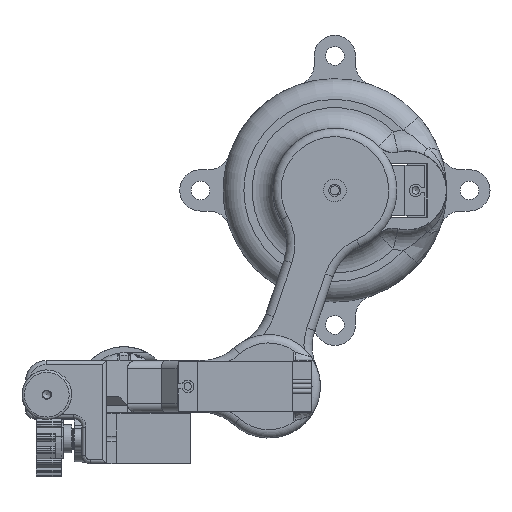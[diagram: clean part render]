
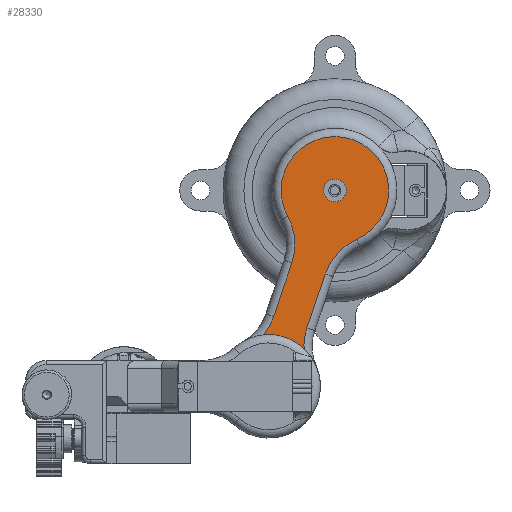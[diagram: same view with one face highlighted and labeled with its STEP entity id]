
A CAD part, left-side view. The second image highlights one B-rep face of the part: STEP entity #28330.
In plain terms, the highlighted planar face has unit normal (-1, 0, 0) as drawn and (0, 0, -1) by its records, which use the part's own axes.
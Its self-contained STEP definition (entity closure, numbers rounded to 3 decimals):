
#4936=FACE_BOUND('',#8200,.T.);
#6022=PLANE('',#30886);
#6907=FACE_OUTER_BOUND('',#8199,.T.);
#8199=EDGE_LOOP('',(#22498,#22499,#22500,#22501,#22502,#22503,#22504,#22505,
#22506,#22507,#22508,#22509,#22510,#22511,#22512,#22513,#22514,#22515,#22516,
#22517,#22518,#22519,#22520,#22521));
#8200=EDGE_LOOP('',(#22522));
#9647=LINE('',#50397,#11781);
#9649=LINE('',#50402,#11783);
#9654=LINE('',#50412,#11788);
#9656=LINE('',#50418,#11790);
#9660=LINE('',#50424,#11794);
#9661=LINE('',#50426,#11795);
#9662=LINE('',#50433,#11796);
#9663=LINE('',#50439,#11797);
#9664=LINE('',#50447,#11798);
#9665=LINE('',#50453,#11799);
#9666=LINE('',#50458,#11800);
#9667=LINE('',#50460,#11801);
#9668=LINE('',#50462,#11802);
#11781=VECTOR('',#34461,10.);
#11783=VECTOR('',#34465,10.);
#11788=VECTOR('',#34472,10.);
#11790=VECTOR('',#34476,10.);
#11794=VECTOR('',#34482,10.);
#11795=VECTOR('',#34485,10.);
#11796=VECTOR('',#34494,10.);
#11797=VECTOR('',#34499,10.);
#11798=VECTOR('',#34506,10.);
#11799=VECTOR('',#34511,10.);
#11800=VECTOR('',#34516,10.);
#11801=VECTOR('',#34517,10.);
#11802=VECTOR('',#34518,10.);
#13825=CIRCLE('',#30887,4.187);
#13826=CIRCLE('',#30888,10.5);
#13827=CIRCLE('',#30889,14.);
#13828=CIRCLE('',#30890,14.);
#13829=CIRCLE('',#30891,13.);
#13830=CIRCLE('',#30892,14.);
#13831=CIRCLE('',#30893,14.);
#13832=CIRCLE('',#30894,10.5);
#13833=CIRCLE('',#30895,4.187);
#13834=CIRCLE('',#30896,4.187);
#13835=CIRCLE('',#30897,4.187);
#13836=CIRCLE('',#30898,2.75);
#15400=VERTEX_POINT('',#50393);
#15401=VERTEX_POINT('',#50395);
#15402=VERTEX_POINT('',#50399);
#15403=VERTEX_POINT('',#50401);
#15405=VERTEX_POINT('',#50406);
#15407=VERTEX_POINT('',#50410);
#15408=VERTEX_POINT('',#50414);
#15410=VERTEX_POINT('',#50417);
#15412=VERTEX_POINT('',#50430);
#15413=VERTEX_POINT('',#50432);
#15414=VERTEX_POINT('',#50434);
#15415=VERTEX_POINT('',#50436);
#15416=VERTEX_POINT('',#50438);
#15417=VERTEX_POINT('',#50440);
#15418=VERTEX_POINT('',#50442);
#15419=VERTEX_POINT('',#50444);
#15420=VERTEX_POINT('',#50446);
#15421=VERTEX_POINT('',#50448);
#15422=VERTEX_POINT('',#50450);
#15423=VERTEX_POINT('',#50452);
#15424=VERTEX_POINT('',#50455);
#15425=VERTEX_POINT('',#50457);
#15426=VERTEX_POINT('',#50459);
#15427=VERTEX_POINT('',#50461);
#15428=VERTEX_POINT('',#50464);
#18036=EDGE_CURVE('',#15400,#15401,#9647,.T.);
#18038=EDGE_CURVE('',#15403,#15402,#9649,.T.);
#18043=EDGE_CURVE('',#15405,#15407,#9654,.T.);
#18045=EDGE_CURVE('',#15410,#15408,#9656,.T.);
#18049=EDGE_CURVE('',#15407,#15410,#9660,.T.);
#18050=EDGE_CURVE('',#15401,#15403,#9661,.T.);
#18052=EDGE_CURVE('',#15408,#15412,#13825,.T.);
#18053=EDGE_CURVE('',#15412,#15413,#9662,.T.);
#18054=EDGE_CURVE('',#15414,#15413,#13826,.T.);
#18055=EDGE_CURVE('',#15415,#15414,#13827,.T.);
#18056=EDGE_CURVE('',#15416,#15415,#9663,.T.);
#18057=EDGE_CURVE('',#15417,#15416,#13828,.T.);
#18058=EDGE_CURVE('',#15418,#15417,#13829,.T.);
#18059=EDGE_CURVE('',#15419,#15418,#13830,.T.);
#18060=EDGE_CURVE('',#15420,#15419,#9664,.T.);
#18061=EDGE_CURVE('',#15421,#15420,#13831,.T.);
#18062=EDGE_CURVE('',#15422,#15421,#13832,.T.);
#18063=EDGE_CURVE('',#15422,#15423,#9665,.T.);
#18064=EDGE_CURVE('',#15423,#15400,#13833,.T.);
#18065=EDGE_CURVE('',#15402,#15424,#13834,.T.);
#18066=EDGE_CURVE('',#15424,#15425,#9666,.T.);
#18067=EDGE_CURVE('',#15425,#15426,#9667,.T.);
#18068=EDGE_CURVE('',#15426,#15427,#9668,.T.);
#18069=EDGE_CURVE('',#15427,#15405,#13835,.T.);
#18070=EDGE_CURVE('',#15428,#15428,#13836,.T.);
#22498=ORIENTED_EDGE('',*,*,#18043,.T.);
#22499=ORIENTED_EDGE('',*,*,#18049,.T.);
#22500=ORIENTED_EDGE('',*,*,#18045,.T.);
#22501=ORIENTED_EDGE('',*,*,#18052,.T.);
#22502=ORIENTED_EDGE('',*,*,#18053,.T.);
#22503=ORIENTED_EDGE('',*,*,#18054,.F.);
#22504=ORIENTED_EDGE('',*,*,#18055,.F.);
#22505=ORIENTED_EDGE('',*,*,#18056,.F.);
#22506=ORIENTED_EDGE('',*,*,#18057,.F.);
#22507=ORIENTED_EDGE('',*,*,#18058,.F.);
#22508=ORIENTED_EDGE('',*,*,#18059,.F.);
#22509=ORIENTED_EDGE('',*,*,#18060,.F.);
#22510=ORIENTED_EDGE('',*,*,#18061,.F.);
#22511=ORIENTED_EDGE('',*,*,#18062,.F.);
#22512=ORIENTED_EDGE('',*,*,#18063,.T.);
#22513=ORIENTED_EDGE('',*,*,#18064,.T.);
#22514=ORIENTED_EDGE('',*,*,#18036,.T.);
#22515=ORIENTED_EDGE('',*,*,#18050,.T.);
#22516=ORIENTED_EDGE('',*,*,#18038,.T.);
#22517=ORIENTED_EDGE('',*,*,#18065,.T.);
#22518=ORIENTED_EDGE('',*,*,#18066,.T.);
#22519=ORIENTED_EDGE('',*,*,#18067,.T.);
#22520=ORIENTED_EDGE('',*,*,#18068,.T.);
#22521=ORIENTED_EDGE('',*,*,#18069,.T.);
#22522=ORIENTED_EDGE('',*,*,#18070,.T.);
#28330=ADVANCED_FACE('',(#6907,#4936),#6022,.F.);
#30886=AXIS2_PLACEMENT_3D('',#50429,#34490,#34491);
#30887=AXIS2_PLACEMENT_3D('',#50431,#34492,#34493);
#30888=AXIS2_PLACEMENT_3D('',#50435,#34495,#34496);
#30889=AXIS2_PLACEMENT_3D('',#50437,#34497,#34498);
#30890=AXIS2_PLACEMENT_3D('',#50441,#34500,#34501);
#30891=AXIS2_PLACEMENT_3D('',#50443,#34502,#34503);
#30892=AXIS2_PLACEMENT_3D('',#50445,#34504,#34505);
#30893=AXIS2_PLACEMENT_3D('',#50449,#34507,#34508);
#30894=AXIS2_PLACEMENT_3D('',#50451,#34509,#34510);
#30895=AXIS2_PLACEMENT_3D('',#50454,#34512,#34513);
#30896=AXIS2_PLACEMENT_3D('',#50456,#34514,#34515);
#30897=AXIS2_PLACEMENT_3D('',#50463,#34519,#34520);
#30898=AXIS2_PLACEMENT_3D('',#50465,#34521,#34522);
#34461=DIRECTION('',(-1.,0.,0.));
#34465=DIRECTION('',(1.,0.,0.));
#34472=DIRECTION('',(1.,0.,0.));
#34476=DIRECTION('',(-1.,0.,0.));
#34482=DIRECTION('',(0.,1.,0.));
#34485=DIRECTION('',(0.,-1.,0.));
#34490=DIRECTION('center_axis',(0.,0.,1.));
#34491=DIRECTION('ref_axis',(1.,0.,0.));
#34492=DIRECTION('center_axis',(0.,0.,1.));
#34493=DIRECTION('ref_axis',(0.857,0.515,0.));
#34494=DIRECTION('',(-0.09,0.996,0.));
#34495=DIRECTION('center_axis',(0.,0.,1.));
#34496=DIRECTION('ref_axis',(0.,1.,0.));
#34497=DIRECTION('center_axis',(0.,0.,-1.));
#34498=DIRECTION('ref_axis',(-0.934,0.357,0.));
#34499=DIRECTION('',(0.,1.,0.));
#34500=DIRECTION('center_axis',(0.,0.,-1.));
#34501=DIRECTION('ref_axis',(-0.915,-0.403,0.));
#34502=DIRECTION('center_axis',(0.,0.,1.));
#34503=DIRECTION('ref_axis',(0.,-1.,0.));
#34504=DIRECTION('center_axis',(0.,0.,-1.));
#34505=DIRECTION('ref_axis',(0.915,-0.403,0.));
#34506=DIRECTION('',(0.,-1.,0.));
#34507=DIRECTION('center_axis',(0.,0.,-1.));
#34508=DIRECTION('ref_axis',(0.934,0.357,0.));
#34509=DIRECTION('center_axis',(0.,0.,1.));
#34510=DIRECTION('ref_axis',(0.,1.,0.));
#34511=DIRECTION('',(-0.09,-0.996,0.));
#34512=DIRECTION('center_axis',(0.,0.,1.));
#34513=DIRECTION('ref_axis',(-0.866,-0.5,0.));
#34514=DIRECTION('center_axis',(0.,0.,1.));
#34515=DIRECTION('ref_axis',(-0.866,-0.5,0.));
#34516=DIRECTION('',(0.11,-0.994,0.));
#34517=DIRECTION('',(1.,0.,0.));
#34518=DIRECTION('',(0.11,0.994,0.));
#34519=DIRECTION('center_axis',(0.,0.,1.));
#34520=DIRECTION('ref_axis',(0.857,0.515,0.));
#34521=DIRECTION('center_axis',(0.,0.,1.));
#34522=DIRECTION('ref_axis',(-1.,0.,0.));
#50393=CARTESIAN_POINT('',(-9.928,-52.825,0.));
#50395=CARTESIAN_POINT('',(-15.25,-52.825,0.));
#50397=CARTESIAN_POINT('',(-1.75,-52.825,0.));
#50399=CARTESIAN_POINT('',(-9.928,-56.825,0.));
#50401=CARTESIAN_POINT('',(-15.25,-56.825,0.));
#50402=CARTESIAN_POINT('',(-10.75,-56.825,0.));
#50406=CARTESIAN_POINT('',(-2.572,-56.825,0.));
#50410=CARTESIAN_POINT('',(2.75,-56.825,0.));
#50412=CARTESIAN_POINT('',(-10.75,-56.825,0.));
#50414=CARTESIAN_POINT('',(-2.572,-52.825,0.));
#50417=CARTESIAN_POINT('',(2.75,-52.825,0.));
#50418=CARTESIAN_POINT('',(-1.75,-52.825,0.));
#50424=CARTESIAN_POINT('',(2.75,-55.825,0.));
#50426=CARTESIAN_POINT('',(-15.25,-53.825,0.));
#50429=CARTESIAN_POINT('Origin',(-6.25,-54.825,0.));
#50430=CARTESIAN_POINT('',(-2.629,-52.722,0.));
#50431=CARTESIAN_POINT('Origin',(-6.25,-54.825,0.));
#50432=CARTESIAN_POINT('',(-3.351,-44.733,0.));
#50433=CARTESIAN_POINT('',(-2.55,-53.602,0.));
#50434=CARTESIAN_POINT('',(1.571,-61.83,0.));
#50435=CARTESIAN_POINT('Origin',(-6.25,-54.825,0.));
#50436=CARTESIAN_POINT('',(-2.,-71.171,0.));
#50437=CARTESIAN_POINT('Origin',(12.,-71.171,0.));
#50438=CARTESIAN_POINT('',(-2.,-84.927,0.));
#50439=CARTESIAN_POINT('',(-2.,-73.007,0.));
#50440=CARTESIAN_POINT('',(2.537,-95.244,0.));
#50441=CARTESIAN_POINT('Origin',(12.,-84.927,0.));
#50442=CARTESIAN_POINT('',(-15.037,-95.244,0.));
#50443=CARTESIAN_POINT('Origin',(-6.25,-104.825,0.));
#50444=CARTESIAN_POINT('',(-10.5,-84.927,0.));
#50445=CARTESIAN_POINT('Origin',(-24.5,-84.927,0.));
#50446=CARTESIAN_POINT('',(-10.5,-71.171,0.));
#50447=CARTESIAN_POINT('',(-10.5,-60.237,0.));
#50448=CARTESIAN_POINT('',(-14.071,-61.83,0.));
#50449=CARTESIAN_POINT('Origin',(-24.5,-71.171,0.));
#50450=CARTESIAN_POINT('',(-9.149,-44.733,0.));
#50451=CARTESIAN_POINT('Origin',(-6.25,-54.825,0.));
#50452=CARTESIAN_POINT('',(-9.871,-52.722,0.));
#50453=CARTESIAN_POINT('',(-9.548,-49.154,0.));
#50454=CARTESIAN_POINT('Origin',(-6.25,-54.825,0.));
#50455=CARTESIAN_POINT('',(-9.876,-56.919,0.));
#50456=CARTESIAN_POINT('Origin',(-6.25,-54.825,0.));
#50457=CARTESIAN_POINT('',(-8.887,-65.825,0.));
#50458=CARTESIAN_POINT('',(-9.968,-56.083,0.));
#50459=CARTESIAN_POINT('',(-3.613,-65.825,0.));
#50460=CARTESIAN_POINT('',(-7.568,-65.825,0.));
#50461=CARTESIAN_POINT('',(-2.624,-56.919,0.));
#50462=CARTESIAN_POINT('',(-3.026,-60.536,0.));
#50463=CARTESIAN_POINT('Origin',(-6.25,-54.825,0.));
#50464=CARTESIAN_POINT('',(-3.5,-104.825,0.));
#50465=CARTESIAN_POINT('Origin',(-6.25,-104.825,0.));
